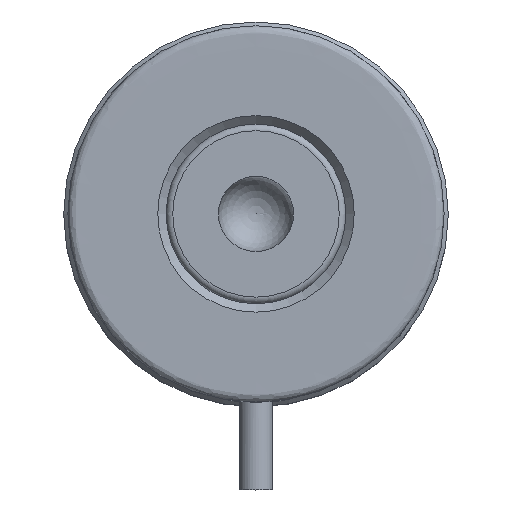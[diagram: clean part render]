
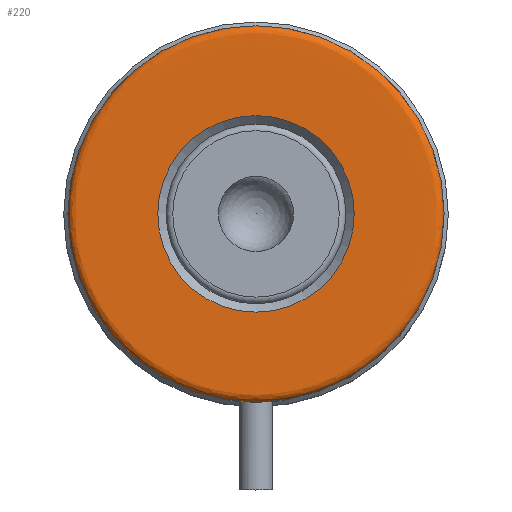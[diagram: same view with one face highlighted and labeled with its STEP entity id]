
A CAD part, top view. The second image highlights one B-rep face of the part: STEP entity #220.
In plain terms, the highlighted face is a revolution surface.
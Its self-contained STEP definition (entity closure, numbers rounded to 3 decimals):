
#220=ADVANCED_FACE('',(#516,#517),#518,.F.);
#516=FACE_OUTER_BOUND('',#878,.T.);
#517=FACE_OUTER_BOUND('',#879,.T.);
#518=SURFACE_OF_REVOLUTION('',#880,#881);
#878=EDGE_LOOP('',(#1369));
#879=EDGE_LOOP('',(#1370));
#880=(B_SPLINE_CURVE(3,(#1372,#1373,#1374,#1375,#1376,#1377,#1378),.UNSPECIFIED.,.F.,.F.)B_SPLINE_CURVE_WITH_KNOTS((4,3,4),(0.827,0.974,1.0),.UNSPECIFIED.)RATIONAL_B_SPLINE_CURVE((1.0,1.0,1.0,1.0,0.805,0.805,1.0))BOUNDED_CURVE()REPRESENTATION_ITEM('')GEOMETRIC_REPRESENTATION_ITEM()CURVE());
#881=AXIS1_PLACEMENT('',#1385,#1386);
#1369=ORIENTED_EDGE('',*,*,#1740,.F.);
#1370=ORIENTED_EDGE('',*,*,#1743,.T.);
#1372=CARTESIAN_POINT('',(-11.75,0.0,0.0));
#1373=CARTESIAN_POINT('',(-15.,0.0,0.));
#1374=CARTESIAN_POINT('',(-18.25,0.0,0.));
#1375=CARTESIAN_POINT('',(-21.5,0.0,0.));
#1376=CARTESIAN_POINT('',(-22.086,0.,0.));
#1377=CARTESIAN_POINT('',(-22.5,0.,-0.414));
#1378=CARTESIAN_POINT('',(-22.5,0.0,-1.));
#1385=CARTESIAN_POINT('',(0.0,0.0,0.));
#1386=DIRECTION('',(0.0,0.,1.0));
#1740=EDGE_CURVE('',#1962,#1962,#1963,.T.);
#1743=EDGE_CURVE('',#1966,#1966,#1967,.T.);
#1962=VERTEX_POINT('',#2441);
#1963=CIRCLE('',#2442,22.5);
#1966=VERTEX_POINT('',#2445);
#1967=CIRCLE('',#2446,11.75);
#2441=CARTESIAN_POINT('',(0.0,22.5,-1.));
#2442=AXIS2_PLACEMENT_3D('',#2688,#2689,#2690);
#2445=CARTESIAN_POINT('',(0.0,11.75,0.));
#2446=AXIS2_PLACEMENT_3D('',#2691,#2692,#2693);
#2688=CARTESIAN_POINT('',(0.0,0.0,-1.));
#2689=DIRECTION('',(-0.0,0.,-1.0));
#2690=DIRECTION('',(0.0,1.0,0.));
#2691=CARTESIAN_POINT('',(0.0,0.0,0.0));
#2692=DIRECTION('',(-0.0,0.,-1.0));
#2693=DIRECTION('',(0.0,1.0,0.));
